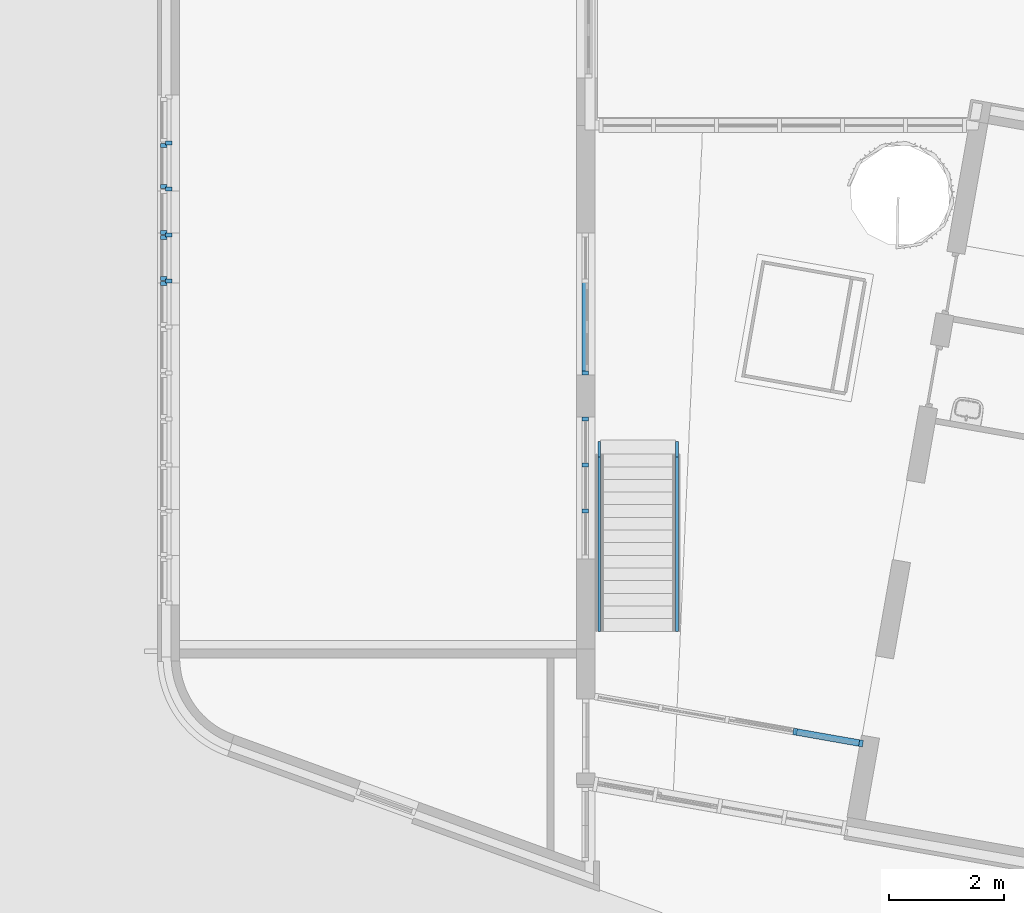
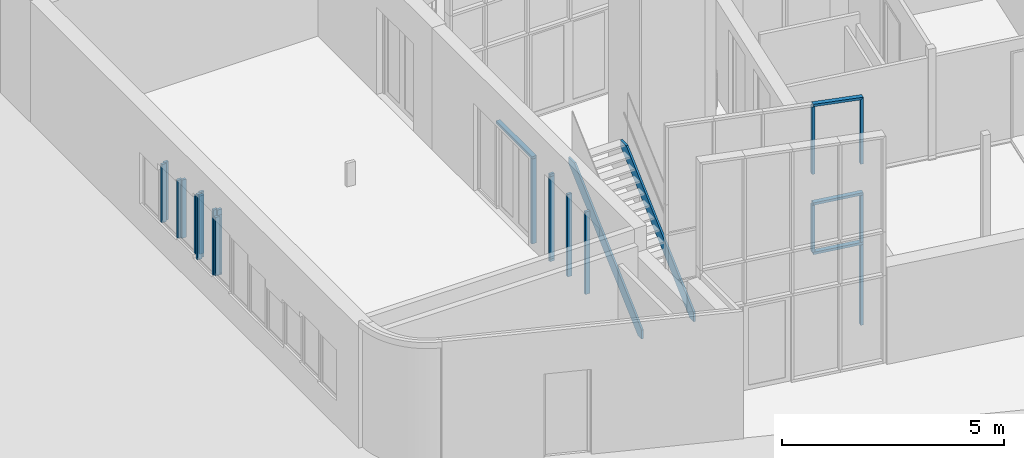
# One storey, part 4 of 21: 28 members, 12 elements without a shape of their own.
"""IFC2X3 building model written with IfcOpenShell, lengths in millimetres."""

from ifc_helpers import new_model, entity, si_unit, converted_unit, derived_unit, direction, frame, frame_2d, origin, origin_2d_with_axis, place, context, subcontext, project, spatial, polyline, rectangle, outline, extrude, clip, halfspace, bounded_halfspace, source, transform, mapped, material, type_object, type_shapes, element, aggregate, save


model = new_model("IFC2X3")

# Units and contexts
model_context = context("Model", 3, precision=0.01, world=origin(), true_north=direction((6.12303176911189e-17, 1.0)))
body_context = subcontext(model_context, "Body", "Model", "MODEL_VIEW")
ifc_project = project(units=[si_unit("LENGTHUNIT", "METRE", prefix="MILLI"), si_unit("AREAUNIT", "SQUARE_METRE"), si_unit("VOLUMEUNIT", "CUBIC_METRE"), converted_unit("PLANEANGLEUNIT", "DEGREE", entity("IfcRatioMeasure", 0.0174532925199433), si_unit("PLANEANGLEUNIT", "RADIAN"), dimensions=[0, 0, 0, 0, 0, 0, 0]), si_unit("MASSUNIT", "GRAM", prefix="KILO"), derived_unit("MASSDENSITYUNIT", [(si_unit("MASSUNIT", "GRAM", prefix="KILO"), 1), (si_unit("LENGTHUNIT", "METRE"), -3)]), derived_unit("MOMENTOFINERTIAUNIT", [(si_unit("LENGTHUNIT", "METRE"), 4)]), si_unit("TIMEUNIT", "SECOND"), si_unit("FREQUENCYUNIT", "HERTZ"), si_unit("THERMODYNAMICTEMPERATUREUNIT", "DEGREE_CELSIUS"), derived_unit("THERMALTRANSMITTANCEUNIT", [(si_unit("MASSUNIT", "GRAM", prefix="KILO"), 1), (si_unit("THERMODYNAMICTEMPERATUREUNIT", "KELVIN"), -1), (si_unit("TIMEUNIT", "SECOND"), -3)]), derived_unit("VOLUMETRICFLOWRATEUNIT", [(si_unit("LENGTHUNIT", "METRE"), 3), (si_unit("TIMEUNIT", "SECOND"), -1)]), si_unit("ELECTRICCURRENTUNIT", "AMPERE"), si_unit("ELECTRICVOLTAGEUNIT", "VOLT"), si_unit("POWERUNIT", "WATT"), si_unit("FORCEUNIT", "NEWTON", prefix="KILO"), si_unit("ILLUMINANCEUNIT", "LUX"), si_unit("LUMINOUSFLUXUNIT", "LUMEN"), si_unit("LUMINOUSINTENSITYUNIT", "CANDELA"), derived_unit("USERDEFINED", [(si_unit("MASSUNIT", "GRAM", prefix="KILO"), -1), (si_unit("LENGTHUNIT", "METRE"), -2), (si_unit("TIMEUNIT", "SECOND"), 3), (si_unit("LUMINOUSFLUXUNIT", "LUMEN"), 1)]), derived_unit("LINEARVELOCITYUNIT", [(si_unit("LENGTHUNIT", "METRE"), 1), (si_unit("TIMEUNIT", "SECOND"), -1)]), si_unit("PRESSUREUNIT", "PASCAL"), derived_unit("USERDEFINED", [(si_unit("LENGTHUNIT", "METRE"), -2), (si_unit("MASSUNIT", "GRAM", prefix="KILO"), 1), (si_unit("TIMEUNIT", "SECOND"), -2)]), derived_unit("LINEARFORCEUNIT", [(si_unit("MASSUNIT", "GRAM", prefix="KILO"), 1), (si_unit("LENGTHUNIT", "METRE"), 1), (si_unit("TIMEUNIT", "SECOND"), -2), (si_unit("LENGTHUNIT", "METRE"), -1)]), derived_unit("PLANARFORCEUNIT", [(si_unit("MASSUNIT", "GRAM", prefix="KILO"), 1), (si_unit("LENGTHUNIT", "METRE"), 1), (si_unit("TIMEUNIT", "SECOND"), -2), (si_unit("LENGTHUNIT", "METRE"), -2)])], contexts=[model_context])

# Site, building, storey
site_placement = place(None, origin())
site = spatial("IfcSite", under=ifc_project, at=site_placement, Name="<Kadaster Gemeente>;<Kadaster nummer>;<Kadaster sectie>", CompositionType="ELEMENT")
building_placement = place(site_placement, origin())
building = spatial("IfcBuilding", under=site, at=building_placement, Name="JRCZ Middelburg", CompositionType="ELEMENT")
storey_placement = place(building_placement, origin())
storey = spatial("IfcBuildingStorey", under=building, at=storey_placement, Name="00 begane grond", CompositionType="ELEMENT", Elevation=0.0)

# Stair, members
stair_placement = place(storey_placement, origin())
stair = element("IfcStair", 1, at=stair_placement, inside=storey, Name="Assembled Stair:Stair", ObjectType="Assembled Stair:RBM_ST_houten trap", ShapeType="STRAIGHT_RUN_STAIR")
ifc_material_1 = material(Name="traphout")
member_type_1 = type_object("IfcMemberType", Name="Stringer:RBM_trapboom hout_300x50", PredefinedType="STRINGER")
member_1_placement = place(stair_placement, origin())
member_1 = element("IfcMember", 2, at=member_1_placement, type_object=member_type_1, material=ifc_material_1, Name="Assembled Stair:Stair:1742392 Stringer 1", ObjectType="Stringer:RBM_trapboom hout_300x50", context=body_context, shape_type="SweptSolid", body=[
    extrude(outline(polyline([(-1634.54613854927, -1514.04896495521), (-1457.9166916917, -1514.04896495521), (1665.45386145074, 1325.37881062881), (1665.45386145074, 1485.95103504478), (1396.10124588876, 1485.95103504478), (-1634.54613854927, -1269.18295080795), (-1634.54613854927, -1514.04896495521)])), frame((17418.0, 11945.153090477, 1514.04896495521), z_axis=(1.0, 0.0, 0.0), x_axis=(0.0, 1.0, 0.0)), (0.0, 0.0, 1.0), 49.9999999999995),
])
member_2_placement = place(stair_placement, origin())
member_2 = element("IfcMember", 3, at=member_2_placement, type_object=member_type_1, material=ifc_material_1, Name="Assembled Stair:Stair:1742392 Stringer 2", ObjectType="Stringer:RBM_trapboom hout_300x50", context=body_context, shape_type="SweptSolid", body=[
    extrude(outline(polyline([(-1634.54613854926, -1514.04896495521), (-1457.91669169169, -1514.04896495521), (1665.45386145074, 1325.37881062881), (1665.45386145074, 1485.95103504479), (1396.10124588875, 1485.95103504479), (-1634.54613854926, -1269.18295080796), (-1634.54613854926, -1514.04896495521)])), frame((18768.0, 11945.153090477, 1514.04896495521), z_axis=(1.0, 0.0, 0.0), x_axis=(0.0, 1.0, 0.0)), (0.0, 0.0, 1.0), 49.9999999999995),
])
aggregate(stair, [member_1, member_2])

# Curtain wall, members
curtain_wall_type_1 = type_object("IfcCurtainWallType", Name="Curtain Wall:vliesgevel B", PredefinedType="NOTDEFINED")
curtain_wall_1_placement = place(storey_placement, origin())
curtain_wall_1 = element("IfcCurtainWall", 4, at=curtain_wall_1_placement, inside=storey, type_object=curtain_wall_type_1, Name="Curtain Wall:vliesgevel B", ObjectType="Curtain Wall:vliesgevel B")
ifc_material_2 = material(Name="RBM_i2_binnenkozijn")
member_type_2 = type_object("IfcMemberType", Name="Rectangular Mullion:32_CWM_067x114", PredefinedType="MULLION", material=ifc_material_2)
shared_shape_1 = source(origin(), body_context, "Body", "SweptSolid", [
    extrude(rectangle(XDim=113.999999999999, YDim=67.0, at=origin_2d_with_axis()), frame((-33.5, 0.0, -2211.16666666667), z_axis=(0.0, 0.0, 1.0), x_axis=(0.0, -1.0, 0.0)), (0.0, 0.0, 1.0), 2211.16666666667),
])
type_shapes(member_type_2, [shared_shape_1])
member_3_placement = place(storey_placement, frame((22027.0026406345, 8355.85560200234, 0.0), z_axis=(0.0, 0.0, -1.0), x_axis=(0.984807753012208, -0.173648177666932, 0.0)))
member_3 = element("IfcMember", 5, at=member_3_placement, type_object=member_type_2, material=ifc_material_2, Name="Rectangular Mullion:32_CWM_067x114", ObjectType="Rectangular Mullion:32_CWM_067x114", context=body_context, shape_type="MappedRepresentation", body=[
    mapped(shared_shape_1, transform((0.0, 0.0, 0.0), scale=1.0)),
])
member_type_3 = type_object("IfcMemberType", Name="Rectangular Mullion:32_CWM_067x114", PredefinedType="MULLION", material=ifc_material_2)
shared_shape_2 = source(origin(), body_context, "Body", "SweptSolid", [
    extrude(rectangle(XDim=113.999999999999, YDim=67.0, at=origin_2d_with_axis()), frame((-33.5, 0.0, -1290.66666666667), z_axis=(0.0, 0.0, 1.0), x_axis=(0.0, -1.0, 0.0)), (0.0, 0.0, 1.0), 1290.66666666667),
])
type_shapes(member_type_3, [shared_shape_2])
member_4_placement = place(storey_placement, frame((22027.0026406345, 8355.85560200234, 2278.16666666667), z_axis=(0.0, 0.0, -1.0), x_axis=(0.984807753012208, -0.173648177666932, 0.0)))
member_4 = element("IfcMember", 6, at=member_4_placement, type_object=member_type_3, material=ifc_material_2, Name="Rectangular Mullion:32_CWM_067x114", ObjectType="Rectangular Mullion:32_CWM_067x114", context=body_context, shape_type="MappedRepresentation", body=[
    mapped(shared_shape_2, transform((0.0, 0.0, 0.0), scale=1.0)),
])
member_type_4 = type_object("IfcMemberType", Name="Rectangular Mullion:32_CWM_067x114", PredefinedType="MULLION", material=ifc_material_2)
shared_shape_3 = source(origin(), body_context, "Body", "Clipping", [
    clip(extrude(rectangle(XDim=113.999999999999, YDim=67.0, at=origin_2d_with_axis()), frame((-33.5, 0.0, -1832.66666666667), z_axis=(0.0, 0.0, 1.0), x_axis=(0.0, -1.0, 0.0)), (0.0, 0.0, 1.0), 1832.66666666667), halfspace(frame((0.0, -304.800000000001, -1832.66666666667), z_axis=(-0.680974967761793, 0.0, -0.732306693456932), x_axis=(-0.732306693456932, 0.0, 0.680974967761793)), False)),
])
type_shapes(member_type_4, [shared_shape_3])
member_5_placement = place(storey_placement, frame((22027.0026406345, 8355.85560200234, 4422.33333333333), z_axis=(0.0, 0.0, -1.0), x_axis=(0.984807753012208, -0.173648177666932, 0.0)))
member_5 = element("IfcMember", 7, at=member_5_placement, type_object=member_type_4, material=ifc_material_2, Name="Rectangular Mullion:32_CWM_067x114", ObjectType="Rectangular Mullion:32_CWM_067x114", context=body_context, shape_type="MappedRepresentation", body=[
    mapped(shared_shape_3, transform((0.0, 0.0, 0.0), scale=1.0)),
])
member_type_5 = type_object("IfcMemberType", Name="Rectangular Mullion:32_CWM_067x114", PredefinedType="MULLION", material=ifc_material_2)
shared_shape_4 = source(origin(), body_context, "Body", "SweptSolid", [
    extrude(rectangle(XDim=113.999999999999, YDim=67.0, at=origin_2d_with_axis()), frame((0.0, 0.0, -1290.66666666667), z_axis=(0.0, 0.0, 1.0), x_axis=(0.0, -1.0, 0.0)), (0.0, 0.0, 1.0), 1290.66666666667),
])
type_shapes(member_type_5, [shared_shape_4])
member_6_placement = place(storey_placement, frame((20849.0391680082, 8563.56234451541, 2278.16666666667), z_axis=(0.0, 0.0, -1.0), x_axis=(0.984807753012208, -0.173648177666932, 0.0)))
member_6 = element("IfcMember", 8, at=member_6_placement, type_object=member_type_5, material=ifc_material_2, Name="Rectangular Mullion:32_CWM_067x114", ObjectType="Rectangular Mullion:32_CWM_067x114", context=body_context, shape_type="MappedRepresentation", body=[
    mapped(shared_shape_4, transform((0.0, 0.0, 0.0), scale=1.0)),
])
member_type_6 = type_object("IfcMemberType", Name="Rectangular Mullion:32_CWM_067x114", PredefinedType="MULLION", material=ifc_material_2)
shared_shape_5 = source(origin(), body_context, "Body", "Clipping", [
    clip(extrude(rectangle(XDim=113.999999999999, YDim=67.0, at=origin_2d_with_axis()), frame((-33.5, 0.0, -1199.30399943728), z_axis=(0.0, 0.0, 1.0), x_axis=(0.0, -1.0, 0.0)), (0.0, 0.0, 1.0), 1199.30399943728), halfspace(frame((0.0, -304.800000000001, 0.0), z_axis=(-0.680939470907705, 0.0, 0.73233970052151), x_axis=(-0.73233970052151, 0.0, -0.680939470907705)), False)),
])
type_shapes(member_type_6, [shared_shape_5])
member_7_placement = place(storey_placement, frame((22027.0026406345, 8355.85560200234, 6255.0), z_axis=(0.982205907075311, -0.17318940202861, -0.0726428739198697), x_axis=(0.071539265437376, -0.0126143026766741, 0.997358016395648)))
member_7 = element("IfcMember", 9, at=member_7_placement, type_object=member_type_6, material=ifc_material_2, Name="Rectangular Mullion:32_CWM_067x114", ObjectType="Rectangular Mullion:32_CWM_067x114", context=body_context, shape_type="MappedRepresentation", body=[
    mapped(shared_shape_5, transform((0.0, 0.0, 0.0), scale=1.0)),
])
member_type_7 = type_object("IfcMemberType", Name="Rectangular Mullion:32_CWM_067x114", PredefinedType="MULLION", material=ifc_material_2)
shared_shape_6 = source(origin(), body_context, "Body", "SweptSolid", [
    extrude(rectangle(XDim=113.999999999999, YDim=67.0, at=origin_2d_with_axis()), frame((0.0, 0.0, -1196.13545793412), z_axis=(0.0, 0.0, 1.0), x_axis=(0.0, -1.0, 0.0)), (0.0, 0.0, 1.0), 1196.13545793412),
])
type_shapes(member_type_7, [shared_shape_6])
member_8_placement = place(storey_placement, frame((22027.0026406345, 8355.85560200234, 2244.66666666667), z_axis=(0.984807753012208, -0.173648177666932, 0.0), x_axis=(0.0, 0.0, 1.0)))
member_8 = element("IfcMember", 10, at=member_8_placement, type_object=member_type_7, material=ifc_material_2, Name="Rectangular Mullion:32_CWM_067x114", ObjectType="Rectangular Mullion:32_CWM_067x114", context=body_context, shape_type="MappedRepresentation", body=[
    mapped(shared_shape_6, transform((0.0, 0.0, 0.0), scale=1.0)),
])
member_9_placement = place(storey_placement, frame((22027.0026406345, 8355.85560200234, 3602.33333333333), z_axis=(0.984807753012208, -0.173648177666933, 0.0), x_axis=(0.0, 0.0, 1.0)))
member_9 = element("IfcMember", 11, at=member_9_placement, type_object=member_type_7, material=ifc_material_2, Name="Rectangular Mullion:32_CWM_067x114", ObjectType="Rectangular Mullion:32_CWM_067x114", context=body_context, shape_type="MappedRepresentation", body=[
    mapped(shared_shape_6, transform((0.0, 0.0, 0.0), scale=1.0)),
])
member_type_8 = type_object("IfcMemberType", Name="Rectangular Mullion:32_CWM_067x114", PredefinedType="MULLION", material=ifc_material_2)
shared_shape_7 = source(origin(), body_context, "Body", "Clipping", [
    clip(clip(extrude(rectangle(XDim=114.000000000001, YDim=67.0, at=origin_2d_with_axis()), frame((0.0, 0.0, -1855.0500567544), z_axis=(0.0, 0.0, 1.0), x_axis=(0.0, -1.0, 0.0)), (0.0, 0.0, 1.0), 1855.0500567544), bounded_halfspace(frame((-4.867072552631, 57.0, -1852.96456879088), z_axis=(0.0726428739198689, 0.0, -0.997358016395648), x_axis=(-0.997358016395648, 0.0, -0.0726428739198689)), False, frame((0.0, 0.0, -1855.0500567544), z_axis=(0.0, 0.0, 1.0), x_axis=(0.0, -1.0, 0.0)), polyline([(57.0, -4.86707255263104), (57.0, -33.5), (-57.0, -33.5), (-57.0, -4.86707255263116), (57.0, -4.86707255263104)]))), bounded_halfspace(frame((1191.26838538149, 57.0, -1765.84367956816), z_axis=(0.0726428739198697, 0.0, -0.997358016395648), x_axis=(-0.997358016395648, 0.0, -0.0726428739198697)), False, frame((0.0, 0.0, -1855.0500567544), z_axis=(0.0, 0.0, 1.0), x_axis=(0.0, -1.0, 0.0)), polyline([(-57.0, 33.5), (57.0, 33.5), (57.0, -4.86707255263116), (-57.0, -4.86707255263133), (-57.0, 33.5)]))),
])
type_shapes(member_type_8, [shared_shape_7])
member_10_placement = place(storey_placement, frame((20849.0391680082, 8563.56234451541, 4422.33333333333), z_axis=(0.0, 0.0, -1.0), x_axis=(0.984807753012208, -0.173648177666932, 0.0)))
member_10 = element("IfcMember", 12, at=member_10_placement, type_object=member_type_8, material=ifc_material_2, Name="Rectangular Mullion:32_CWM_067x114", ObjectType="Rectangular Mullion:32_CWM_067x114", context=body_context, shape_type="MappedRepresentation", body=[
    mapped(shared_shape_7, transform((0.0, 0.0, 0.0), scale=1.0)),
])
aggregate(curtain_wall_1, [member_3, member_4, member_5, member_7, member_8, member_9, member_6, member_10])

curtain_wall_type_2 = type_object("IfcCurtainWallType", Name="Curtain Wall:NLRS_32_CW_067x114", PredefinedType="NOTDEFINED")
curtain_wall_2_placement = place(storey_placement, origin())
curtain_wall_2 = element("IfcCurtainWall", 13, at=curtain_wall_2_placement, inside=storey, type_object=curtain_wall_type_2, Name="Curtain Wall:NLRS_32_CW_067x114", ObjectType="Curtain Wall:NLRS_32_CW_067x114")
member_type_9 = type_object("IfcMemberType", Name="Rectangular Mullion:32_CWM_067x114", PredefinedType="MULLION", material=ifc_material_2)
shared_shape_8 = source(origin(), body_context, "Body", "SweptSolid", [
    extrude(rectangle(XDim=113.999999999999, YDim=67.0, at=origin_2d_with_axis()), frame((-33.5, 0.0, -2400.0), z_axis=(0.0, 0.0, 1.0), x_axis=(0.0, -1.0, 0.0)), (0.0, 0.0, 1.0), 2400.0),
])
type_shapes(member_type_9, [shared_shape_8])
member_11_placement = place(storey_placement, frame((17203.0, 14033.4999996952, 0.0), z_axis=(0.0, 0.0, -1.0), x_axis=(0.0, 1.0, 0.0)))
member_11 = element("IfcMember", 14, at=member_11_placement, type_object=member_type_9, material=ifc_material_2, Name="Rectangular Mullion:32_CWM_067x114", ObjectType="Rectangular Mullion:32_CWM_067x114", context=body_context, shape_type="MappedRepresentation", body=[
    mapped(shared_shape_8, transform((0.0, 0.0, 0.0), scale=1.0)),
])
member_type_10 = type_object("IfcMemberType", Name="Rectangular Mullion:32_CWM_067x114", PredefinedType="MULLION", material=ifc_material_2)
shared_shape_9 = source(origin(), body_context, "Body", "SweptSolid", [
    extrude(rectangle(XDim=113.999999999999, YDim=67.0, at=origin_2d_with_axis()), frame((0.0, 0.0, -2266.0), z_axis=(0.0, 0.0, 1.0), x_axis=(0.0, -1.0, 0.0)), (0.0, 0.0, 1.0), 2266.0),
])
type_shapes(member_type_10, [shared_shape_9])
member_12_placement = place(storey_placement, frame((17203.0, 12400.0, 67.0), z_axis=(0.0, 0.0, -1.0), x_axis=(0.0, 1.0, 0.0)))
member_12 = element("IfcMember", 15, at=member_12_placement, type_object=member_type_10, material=ifc_material_2, Name="Rectangular Mullion:32_CWM_067x114", ObjectType="Rectangular Mullion:32_CWM_067x114", context=body_context, shape_type="MappedRepresentation", body=[
    mapped(shared_shape_9, transform((0.0, 0.0, 0.0), scale=1.0)),
])
member_13_placement = place(storey_placement, frame((17203.0, 13200.0, 67.0), z_axis=(0.0, 0.0, -1.0), x_axis=(0.0, 1.0, 0.0)))
member_13 = element("IfcMember", 16, at=member_13_placement, type_object=member_type_10, material=ifc_material_2, Name="Rectangular Mullion:32_CWM_067x114", ObjectType="Rectangular Mullion:32_CWM_067x114", context=body_context, shape_type="MappedRepresentation", body=[
    mapped(shared_shape_9, transform((0.0, 0.0, 0.0), scale=1.0)),
])
member_14_placement = place(storey_placement, frame((17203.0, 14000.0, 67.0), z_axis=(0.0, 0.0, -1.0), x_axis=(0.0, 1.0, 0.0)))
member_14 = element("IfcMember", 17, at=member_14_placement, type_object=member_type_10, material=ifc_material_2, Name="Rectangular Mullion:32_CWM_067x114", ObjectType="Rectangular Mullion:32_CWM_067x114", context=body_context, shape_type="MappedRepresentation", body=[
    mapped(shared_shape_9, transform((0.0, 0.0, 0.0), scale=1.0)),
])
aggregate(curtain_wall_2, [member_11, member_12, member_13, member_14])

curtain_wall_3_placement = place(storey_placement, origin())
curtain_wall_3 = element("IfcCurtainWall", 18, at=curtain_wall_3_placement, inside=storey, type_object=curtain_wall_type_2, Name="Curtain Wall:NLRS_32_CW_067x114", ObjectType="Curtain Wall:NLRS_32_CW_067x114")
member_type_11 = type_object("IfcMemberType", Name="Rectangular Mullion:32_CWM_067x114", PredefinedType="MULLION", material=ifc_material_2)
shared_shape_10 = source(origin(), body_context, "Body", "SweptSolid", [
    extrude(rectangle(XDim=113.999999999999, YDim=67.0, at=origin_2d_with_axis()), frame((-33.5, 0.0, -1633.5000003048), z_axis=(0.0, 0.0, 1.0), x_axis=(0.0, -1.0, 0.0)), (0.0, 0.0, 1.0), 1633.5000003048),
])
type_shapes(member_type_11, [shared_shape_10])
member_15_placement = place(storey_placement, frame((17203.0, 16400.0, 2400.0), z_axis=(0.0, 1.0, 0.0), x_axis=(0.0, 0.0, 1.0)))
member_15 = element("IfcMember", 19, at=member_15_placement, type_object=member_type_11, material=ifc_material_2, Name="Rectangular Mullion:32_CWM_067x114", ObjectType="Rectangular Mullion:32_CWM_067x114", context=body_context, shape_type="MappedRepresentation", body=[
    mapped(shared_shape_10, transform((0.0, 0.0, 0.0), scale=1.0)),
])
member_type_12 = type_object("IfcMemberType", Name="Rectangular Mullion:32_CWM_067x114", PredefinedType="MULLION", material=ifc_material_2)
shared_shape_11 = source(origin(), body_context, "Body", "SweptSolid", [
    extrude(rectangle(XDim=113.999999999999, YDim=67.0, at=origin_2d_with_axis()), frame((-33.5, 0.0, -2333.0), z_axis=(0.0, 0.0, 1.0), x_axis=(0.0, -1.0, 0.0)), (0.0, 0.0, 1.0), 2333.0),
])
type_shapes(member_type_12, [shared_shape_11])
member_16_placement = place(storey_placement, frame((17203.0, 14766.4999996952, 2333.0), z_axis=(0.0, 0.0, 1.0), x_axis=(0.0, -1.0, 0.0)))
member_16 = element("IfcMember", 20, at=member_16_placement, type_object=member_type_12, material=ifc_material_2, Name="Rectangular Mullion:32_CWM_067x114", ObjectType="Rectangular Mullion:32_CWM_067x114", context=body_context, shape_type="MappedRepresentation", body=[
    mapped(shared_shape_11, transform((0.0, 0.0, 0.0), scale=1.0)),
])
aggregate(curtain_wall_3, [member_15, member_16])

# Curtain wall, member
curtain_wall_type_3 = type_object("IfcCurtainWallType", Name="Curtain Wall:NLRS_31_CW_hsb rek 63x196mm h.o.h. 800mm", PredefinedType="NOTDEFINED")
curtain_wall_4_placement = place(storey_placement, origin())
curtain_wall_4 = element("IfcCurtainWall", 21, at=curtain_wall_4_placement, inside=storey, type_object=curtain_wall_type_3, Name="Curtain Wall:NLRS_31_CW_hsb rek 63x196mm h.o.h. 800mm", ObjectType="Curtain Wall:NLRS_31_CW_hsb rek 63x196mm h.o.h. 800mm")
member_type_13 = type_object("IfcMemberType", Name="Rectangular Mullion:32_CWM_067x114", PredefinedType="MULLION", material=ifc_material_2)
shared_shape_12 = source(origin(), body_context, "Body", "SweptSolid", [
    extrude(rectangle(XDim=66.9999999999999, YDim=114.0, at=frame_2d((1.08002495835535e-12, 0.0), x_axis=(1.0, 0.0))), frame((9956.0, 16398.0, 750.0), z_axis=(0.0, 0.0, 1.0), x_axis=(0.0, -1.0, 0.0)), (0.0, 0.0, 1.0), 1600.0),
])
type_shapes(member_type_13, [shared_shape_12])
member_17_placement = place(storey_placement, origin())
member_17 = element("IfcMember", 22, at=member_17_placement, type_object=member_type_13, material=ifc_material_2, Name="Rectangular Mullion:32_CWM_067x114", ObjectType="Rectangular Mullion:32_CWM_067x114", context=body_context, shape_type="MappedRepresentation", body=[
    mapped(shared_shape_12, transform((0.0, 0.0, 0.0), scale=1.0)),
])
aggregate(curtain_wall_4, [member_17])

curtain_wall_type_4 = type_object("IfcCurtainWallType", Name="Curtain Wall:NLRS_31_CW_Ontwerpkozijn 067x114 2", PredefinedType="NOTDEFINED")
curtain_wall_5_placement = place(storey_placement, origin())
curtain_wall_5 = element("IfcCurtainWall", 23, at=curtain_wall_5_placement, inside=storey, type_object=curtain_wall_type_4, Name="Curtain Wall:NLRS_31_CW_Ontwerpkozijn 067x114 2", ObjectType="Curtain Wall:NLRS_31_CW_Ontwerpkozijn 067x114 2")
ifc_material_3 = material(Name="RBM_a_kozijn")
member_type_14 = type_object("IfcMemberType", Name="Rectangular Mullion:31_CWM_067x114", PredefinedType="MULLION", material=ifc_material_3)
shared_shape_13 = source(origin(), body_context, "Body", "SweptSolid", [
    extrude(outline(polyline([(-30.0, -65.333333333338), (37.0, -65.333333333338), (37.0, 48.6666666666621), (-7.0, 48.6666666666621), (-7.0, 16.666666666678), (-30.0, 16.666666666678), (-30.0, -65.333333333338)])), frame((9882.3333333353, 16357.4999999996, 750.0), z_axis=(0.0, 0.0, 1.0), x_axis=(0.0, -1.0, 0.0)), (0.0, 0.0, 1.0), 1600.0),
])
type_shapes(member_type_14, [shared_shape_13])
member_18_placement = place(storey_placement, origin())
member_18 = element("IfcMember", 24, at=member_18_placement, type_object=member_type_14, material=ifc_material_3, Name="Rectangular Mullion:31_CWM_067x114", ObjectType="Rectangular Mullion:31_CWM_067x114", context=body_context, shape_type="MappedRepresentation", body=[
    mapped(shared_shape_13, transform((0.0, 0.0, 0.0), scale=1.0)),
])
aggregate(curtain_wall_5, [member_18])

# Curtain wall, members
curtain_wall_6_placement = place(storey_placement, origin())
curtain_wall_6 = element("IfcCurtainWall", 25, at=curtain_wall_6_placement, inside=storey, type_object=curtain_wall_type_3, Name="Curtain Wall:NLRS_31_CW_hsb rek 63x196mm h.o.h. 800mm", ObjectType="Curtain Wall:NLRS_31_CW_hsb rek 63x196mm h.o.h. 800mm")
member_type_15 = type_object("IfcMemberType", Name="Rectangular Mullion:32_CWM_067x114", PredefinedType="MULLION", material=ifc_material_2)
shared_shape_14 = source(origin(), body_context, "Body", "SweptSolid", [
    extrude(rectangle(XDim=66.9999999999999, YDim=114.0, at=frame_2d((1.08357767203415e-12, 1.08002495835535e-12), x_axis=(1.0, 0.0))), frame((9956.0, 17198.0, 700.0), z_axis=(0.0, 0.0, 1.0), x_axis=(0.0, -1.0, 0.0)), (0.0, 0.0, 1.0), 1800.0),
])
type_shapes(member_type_15, [shared_shape_14])
member_19_placement = place(storey_placement, origin())
member_19 = element("IfcMember", 26, at=member_19_placement, type_object=member_type_15, material=ifc_material_2, Name="Rectangular Mullion:32_CWM_067x114", ObjectType="Rectangular Mullion:32_CWM_067x114", context=body_context, shape_type="MappedRepresentation", body=[
    mapped(shared_shape_14, transform((0.0, 0.0, 0.0), scale=1.0)),
])
member_type_16 = type_object("IfcMemberType", Name="Rectangular Mullion:32_CWM_067x114", PredefinedType="MULLION", material=ifc_material_2)
shared_shape_15 = source(origin(), body_context, "Body", "SweptSolid", [
    extrude(rectangle(XDim=66.9999999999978, YDim=114.0, at=frame_2d((1.08357767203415e-12, 1.08002495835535e-12), x_axis=(1.0, 0.0))), frame((9956.0, 16402.0, 700.0), z_axis=(0.0, 0.0, 1.0), x_axis=(0.0, -1.0, 0.0)), (0.0, 0.0, 1.0), 1800.0),
])
type_shapes(member_type_16, [shared_shape_15])
member_20_placement = place(storey_placement, origin())
member_20 = element("IfcMember", 27, at=member_20_placement, type_object=member_type_16, material=ifc_material_2, Name="Rectangular Mullion:32_CWM_067x114", ObjectType="Rectangular Mullion:32_CWM_067x114", context=body_context, shape_type="MappedRepresentation", body=[
    mapped(shared_shape_15, transform((0.0, 0.0, 0.0), scale=1.0)),
])
aggregate(curtain_wall_6, [member_19, member_20])

curtain_wall_7_placement = place(storey_placement, origin())
curtain_wall_7 = element("IfcCurtainWall", 28, at=curtain_wall_7_placement, inside=storey, type_object=curtain_wall_type_4, Name="Curtain Wall:NLRS_31_CW_Ontwerpkozijn 067x114 2", ObjectType="Curtain Wall:NLRS_31_CW_Ontwerpkozijn 067x114 2")
member_type_17 = type_object("IfcMemberType", Name="Rectangular Mullion:31_CWM_067x114", PredefinedType="MULLION", material=ifc_material_3)
shared_shape_16 = source(origin(), body_context, "Body", "SweptSolid", [
    extrude(rectangle(XDim=66.9999999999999, YDim=114.0, at=frame_2d((0.0, 1.08002495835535e-12), x_axis=(1.0, 0.0))), frame((9874.0, 16446.0, 700.0), z_axis=(0.0, 0.0, 1.0), x_axis=(0.0, -1.0, 0.0)), (0.0, 0.0, 1.0), 1800.0),
])
type_shapes(member_type_17, [shared_shape_16])
member_21_placement = place(storey_placement, origin())
member_21 = element("IfcMember", 29, at=member_21_placement, type_object=member_type_17, material=ifc_material_3, Name="Rectangular Mullion:31_CWM_067x114", ObjectType="Rectangular Mullion:31_CWM_067x114", context=body_context, shape_type="MappedRepresentation", body=[
    mapped(shared_shape_16, transform((0.0, 0.0, 0.0), scale=1.0)),
])
member_type_18 = type_object("IfcMemberType", Name="Rectangular Mullion:31_CWM_067x114", PredefinedType="MULLION", material=ifc_material_3)
shared_shape_17 = source(origin(), body_context, "Body", "SweptSolid", [
    extrude(rectangle(XDim=66.9999999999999, YDim=114.0, at=frame_2d((0.0, 1.08002495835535e-12), x_axis=(1.0, 0.0))), frame((9874.0, 17154.0, 700.0), z_axis=(0.0, 0.0, 1.0), x_axis=(0.0, -1.0, 0.0)), (0.0, 0.0, 1.0), 1800.0),
])
type_shapes(member_type_18, [shared_shape_17])
member_22_placement = place(storey_placement, origin())
member_22 = element("IfcMember", 30, at=member_22_placement, type_object=member_type_18, material=ifc_material_3, Name="Rectangular Mullion:31_CWM_067x114", ObjectType="Rectangular Mullion:31_CWM_067x114", context=body_context, shape_type="MappedRepresentation", body=[
    mapped(shared_shape_17, transform((0.0, 0.0, 0.0), scale=1.0)),
])
aggregate(curtain_wall_7, [member_21, member_22])

curtain_wall_8_placement = place(storey_placement, origin())
curtain_wall_8 = element("IfcCurtainWall", 31, at=curtain_wall_8_placement, inside=storey, type_object=curtain_wall_type_3, Name="Curtain Wall:NLRS_31_CW_hsb rek 63x196mm h.o.h. 800mm", ObjectType="Curtain Wall:NLRS_31_CW_hsb rek 63x196mm h.o.h. 800mm")
member_type_19 = type_object("IfcMemberType", Name="Rectangular Mullion:32_CWM_067x114", PredefinedType="MULLION", material=ifc_material_2)
shared_shape_18 = source(origin(), body_context, "Body", "SweptSolid", [
    extrude(rectangle(XDim=66.9999999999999, YDim=114.0, at=frame_2d((1.08002495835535e-12, 0.0), x_axis=(1.0, 0.0))), frame((9956.0, 18798.0, 750.0), z_axis=(0.0, 0.0, 1.0), x_axis=(0.0, -1.0, 0.0)), (0.0, 0.0, 1.0), 1600.0),
])
type_shapes(member_type_19, [shared_shape_18])
member_23_placement = place(storey_placement, origin())
member_23 = element("IfcMember", 32, at=member_23_placement, type_object=member_type_19, material=ifc_material_2, Name="Rectangular Mullion:32_CWM_067x114", ObjectType="Rectangular Mullion:32_CWM_067x114", context=body_context, shape_type="MappedRepresentation", body=[
    mapped(shared_shape_18, transform((0.0, 0.0, 0.0), scale=1.0)),
])
member_type_20 = type_object("IfcMemberType", Name="Rectangular Mullion:32_CWM_067x114", PredefinedType="MULLION", material=ifc_material_2)
shared_shape_19 = source(origin(), body_context, "Body", "SweptSolid", [
    extrude(rectangle(XDim=67.0000000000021, YDim=114.0, at=frame_2d((-1.08357767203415e-12, 0.0), x_axis=(1.0, 0.0))), frame((9956.0, 18002.0, 750.0), z_axis=(0.0, 0.0, 1.0), x_axis=(0.0, -1.0, 0.0)), (0.0, 0.0, 1.0), 1600.0),
])
type_shapes(member_type_20, [shared_shape_19])
member_24_placement = place(storey_placement, origin())
member_24 = element("IfcMember", 33, at=member_24_placement, type_object=member_type_20, material=ifc_material_2, Name="Rectangular Mullion:32_CWM_067x114", ObjectType="Rectangular Mullion:32_CWM_067x114", context=body_context, shape_type="MappedRepresentation", body=[
    mapped(shared_shape_19, transform((0.0, 0.0, 0.0), scale=1.0)),
])
aggregate(curtain_wall_8, [member_23, member_24])

curtain_wall_9_placement = place(storey_placement, origin())
curtain_wall_9 = element("IfcCurtainWall", 34, at=curtain_wall_9_placement, inside=storey, type_object=curtain_wall_type_4, Name="Curtain Wall:NLRS_31_CW_Ontwerpkozijn 067x114 2", ObjectType="Curtain Wall:NLRS_31_CW_Ontwerpkozijn 067x114 2")
member_type_21 = type_object("IfcMemberType", Name="Rectangular Mullion:31_CWM_067x114", PredefinedType="MULLION", material=ifc_material_3)
shared_shape_20 = source(origin(), body_context, "Body", "SweptSolid", [
    extrude(outline(polyline([(-37.0, -65.333333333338), (30.0, -65.333333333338), (30.0, 16.666666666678), (7.0, 16.666666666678), (7.0, 48.6666666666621), (-37.0, 48.6666666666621), (-37.0, -65.333333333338)])), frame((9882.33333333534, 18042.4999999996, 750.0), z_axis=(0.0, 0.0, 1.0), x_axis=(0.0, -1.0, 0.0)), (0.0, 0.0, 1.0), 1600.0),
])
type_shapes(member_type_21, [shared_shape_20])
member_25_placement = place(storey_placement, origin())
member_25 = element("IfcMember", 35, at=member_25_placement, type_object=member_type_21, material=ifc_material_3, Name="Rectangular Mullion:31_CWM_067x114", ObjectType="Rectangular Mullion:31_CWM_067x114", context=body_context, shape_type="MappedRepresentation", body=[
    mapped(shared_shape_20, transform((0.0, 0.0, 0.0), scale=1.0)),
])
member_type_22 = type_object("IfcMemberType", Name="Rectangular Mullion:31_CWM_067x114", PredefinedType="MULLION", material=ifc_material_3)
shared_shape_21 = source(origin(), body_context, "Body", "SweptSolid", [
    extrude(outline(polyline([(-30.0, -65.333333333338), (37.0, -65.333333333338), (37.0, 48.6666666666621), (-7.0, 48.6666666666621), (-7.0, 16.666666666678), (-30.0, 16.666666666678), (-30.0, -65.333333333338)])), frame((9882.33333333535, 18757.4999999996, 750.0), z_axis=(0.0, 0.0, 1.0), x_axis=(0.0, -1.0, 0.0)), (0.0, 0.0, 1.0), 1600.0),
])
type_shapes(member_type_22, [shared_shape_21])
member_26_placement = place(storey_placement, origin())
member_26 = element("IfcMember", 36, at=member_26_placement, type_object=member_type_22, material=ifc_material_3, Name="Rectangular Mullion:31_CWM_067x114", ObjectType="Rectangular Mullion:31_CWM_067x114", context=body_context, shape_type="MappedRepresentation", body=[
    mapped(shared_shape_21, transform((0.0, 0.0, 0.0), scale=1.0)),
])
aggregate(curtain_wall_9, [member_25, member_26])

# Curtain wall, member
curtain_wall_10_placement = place(storey_placement, origin())
curtain_wall_10 = element("IfcCurtainWall", 37, at=curtain_wall_10_placement, inside=storey, type_object=curtain_wall_type_3, Name="Curtain Wall:NLRS_31_CW_hsb rek 63x196mm h.o.h. 800mm", ObjectType="Curtain Wall:NLRS_31_CW_hsb rek 63x196mm h.o.h. 800mm")
member_type_23 = type_object("IfcMemberType", Name="Rectangular Mullion:32_CWM_067x114", PredefinedType="MULLION", material=ifc_material_2)
shared_shape_22 = source(origin(), body_context, "Body", "SweptSolid", [
    extrude(rectangle(XDim=67.0000000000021, YDim=114.0, at=frame_2d((-1.08357767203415e-12, 0.0), x_axis=(1.0, 0.0))), frame((9956.0, 17202.0, 800.0), z_axis=(0.0, 0.0, 1.0), x_axis=(0.0, -1.0, 0.0)), (0.0, 0.0, 1.0), 1600.0),
])
type_shapes(member_type_23, [shared_shape_22])
member_27_placement = place(storey_placement, origin())
member_27 = element("IfcMember", 38, at=member_27_placement, type_object=member_type_23, material=ifc_material_2, Name="Rectangular Mullion:32_CWM_067x114", ObjectType="Rectangular Mullion:32_CWM_067x114", context=body_context, shape_type="MappedRepresentation", body=[
    mapped(shared_shape_22, transform((0.0, 0.0, 0.0), scale=1.0)),
])
aggregate(curtain_wall_10, [member_27])

curtain_wall_11_placement = place(storey_placement, origin())
curtain_wall_11 = element("IfcCurtainWall", 39, at=curtain_wall_11_placement, inside=storey, type_object=curtain_wall_type_4, Name="Curtain Wall:NLRS_31_CW_Ontwerpkozijn 067x114 2", ObjectType="Curtain Wall:NLRS_31_CW_Ontwerpkozijn 067x114 2")
member_type_24 = type_object("IfcMemberType", Name="Rectangular Mullion:31_CWM_067x114", PredefinedType="MULLION", material=ifc_material_3)
shared_shape_23 = source(origin(), body_context, "Body", "SweptSolid", [
    extrude(outline(polyline([(-37.0, -65.333333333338), (30.0, -65.333333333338), (30.0, 16.666666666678), (7.0, 16.666666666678), (7.0, 48.6666666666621), (-37.0, 48.6666666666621), (-37.0, -65.333333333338)])), frame((9882.33333333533, 17242.4999999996, 800.0), z_axis=(0.0, 0.0, 1.0), x_axis=(0.0, -1.0, 0.0)), (0.0, 0.0, 1.0), 1600.0),
])
type_shapes(member_type_24, [shared_shape_23])
member_28_placement = place(storey_placement, origin())
member_28 = element("IfcMember", 40, at=member_28_placement, type_object=member_type_24, material=ifc_material_3, Name="Rectangular Mullion:31_CWM_067x114", ObjectType="Rectangular Mullion:31_CWM_067x114", context=body_context, shape_type="MappedRepresentation", body=[
    mapped(shared_shape_23, transform((0.0, 0.0, 0.0), scale=1.0)),
])
aggregate(curtain_wall_11, [member_28])

save(model, "model.ifc")
